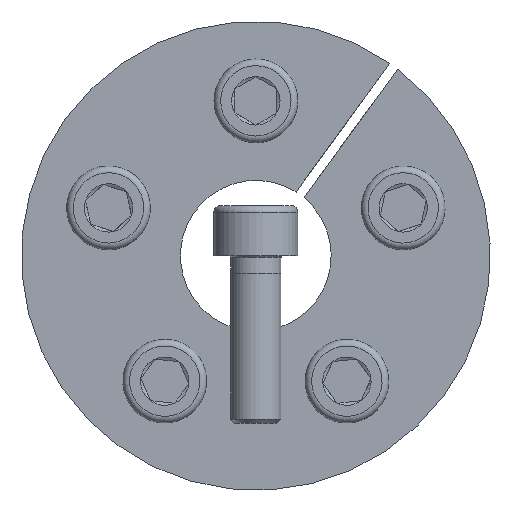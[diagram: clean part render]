
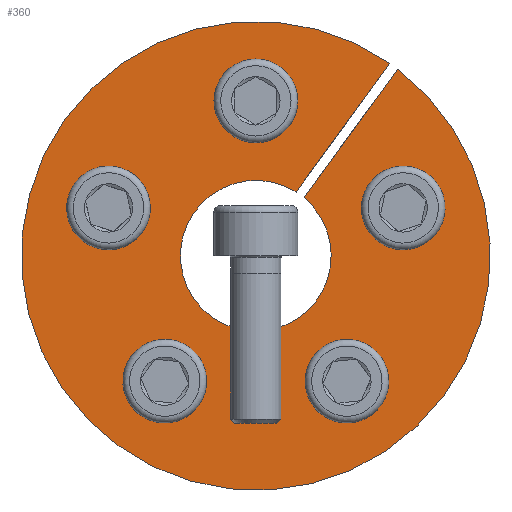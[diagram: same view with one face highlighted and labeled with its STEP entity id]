
A CAD part, front view. The second image highlights one B-rep face of the part: STEP entity #360.
In plain terms, the highlighted planar face has unit normal (0, -1, 0).
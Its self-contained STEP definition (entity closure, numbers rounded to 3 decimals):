
#360 = ADVANCED_FACE( '', ( #560, #561, #562, #563, #564, #565 ), #566, .F. );
#560 = FACE_BOUND( '', #694, .T. );
#561 = FACE_BOUND( '', #695, .T. );
#562 = FACE_BOUND( '', #696, .T. );
#563 = FACE_BOUND( '', #697, .T. );
#564 = FACE_BOUND( '', #698, .T. );
#565 = FACE_OUTER_BOUND( '', #699, .T. );
#566 = PLANE( '', #700 );
#694 = EDGE_LOOP( '', ( #867 ) );
#695 = EDGE_LOOP( '', ( #868 ) );
#696 = EDGE_LOOP( '', ( #869 ) );
#697 = EDGE_LOOP( '', ( #870 ) );
#698 = EDGE_LOOP( '', ( #871 ) );
#699 = EDGE_LOOP( '', ( #872, #873, #874, #875 ) );
#700 = AXIS2_PLACEMENT_3D( '', #876, #877, #878 );
#867 = ORIENTED_EDGE( '', *, *, #1167, .T. );
#868 = ORIENTED_EDGE( '', *, *, #1168, .T. );
#869 = ORIENTED_EDGE( '', *, *, #1169, .T. );
#870 = ORIENTED_EDGE( '', *, *, #1170, .T. );
#871 = ORIENTED_EDGE( '', *, *, #1171, .T. );
#872 = ORIENTED_EDGE( '', *, *, #1172, .T. );
#873 = ORIENTED_EDGE( '', *, *, #1173, .T. );
#874 = ORIENTED_EDGE( '', *, *, #1159, .T. );
#875 = ORIENTED_EDGE( '', *, *, #1174, .F. );
#876 = CARTESIAN_POINT( '', ( 0., 0., 28. ) );
#877 = DIRECTION( '', ( 0., 1., 0. ) );
#878 = DIRECTION( '', ( 0., 0., 1. ) );
#1159 = EDGE_CURVE( '', #1283, #1281, #1284, .T. );
#1167 = EDGE_CURVE( '', #1297, #1297, #1298, .T. );
#1168 = EDGE_CURVE( '', #1299, #1299, #1300, .T. );
#1169 = EDGE_CURVE( '', #1301, #1301, #1302, .T. );
#1170 = EDGE_CURVE( '', #1303, #1303, #1304, .T. );
#1171 = EDGE_CURVE( '', #1305, #1305, #1306, .T. );
#1172 = EDGE_CURVE( '', #1307, #1308, #1309, .T. );
#1173 = EDGE_CURVE( '', #1308, #1283, #1310, .T. );
#1174 = EDGE_CURVE( '', #1307, #1281, #1311, .T. );
#1281 = VERTEX_POINT( '', #1373 );
#1283 = VERTEX_POINT( '', #1376 );
#1284 = LINE( '', #1377, #1378 );
#1297 = VERTEX_POINT( '', #1402 );
#1298 = CIRCLE( '', #1403, 3. );
#1299 = VERTEX_POINT( '', #1404 );
#1300 = CIRCLE( '', #1405, 3. );
#1301 = VERTEX_POINT( '', #1406 );
#1302 = CIRCLE( '', #1407, 3. );
#1303 = VERTEX_POINT( '', #1408 );
#1304 = CIRCLE( '', #1409, 3. );
#1305 = VERTEX_POINT( '', #1410 );
#1306 = CIRCLE( '', #1411, 3. );
#1307 = VERTEX_POINT( '', #1412 );
#1308 = VERTEX_POINT( '', #1413 );
#1309 = LINE( '', #1414, #1415 );
#1310 = CIRCLE( '', #1416, 28. );
#1311 = CIRCLE( '', #1417, 9. );
#1373 = CARTESIAN_POINT( '', ( 5.754, 0., 6.92 ) );
#1376 = CARTESIAN_POINT( '', ( 16.93, 0., 22.302 ) );
#1377 = CARTESIAN_POINT( '', ( 16.933, 0., 22.307 ) );
#1378 = VECTOR( '', #1494, 1000. );
#1402 = CARTESIAN_POINT( '', ( -16.667, 0., 8.57 ) );
#1403 = AXIS2_PLACEMENT_3D( '', #1500, #1501, #1502 );
#1404 = CARTESIAN_POINT( '', ( 8.447, 0., -16.73 ) );
#1405 = AXIS2_PLACEMENT_3D( '', #1503, #1504, #1505 );
#1406 = CARTESIAN_POINT( '', ( 3., 0., 18.5 ) );
#1407 = AXIS2_PLACEMENT_3D( '', #1506, #1507, #1508 );
#1408 = CARTESIAN_POINT( '', ( 18.522, 0., 2.864 ) );
#1409 = AXIS2_PLACEMENT_3D( '', #1509, #1510, #1511 );
#1410 = CARTESIAN_POINT( '', ( -13.301, 0., -13.203 ) );
#1411 = AXIS2_PLACEMENT_3D( '', #1512, #1513, #1514 );
#1412 = CARTESIAN_POINT( '', ( 4.803, 0., 7.611 ) );
#1413 = CARTESIAN_POINT( '', ( 15.979, 0., 22.993 ) );
#1414 = CARTESIAN_POINT( '', ( 4.803, 0., 7.611 ) );
#1415 = VECTOR( '', #1515, 1000. );
#1416 = AXIS2_PLACEMENT_3D( '', #1516, #1517, #1518 );
#1417 = AXIS2_PLACEMENT_3D( '', #1519, #1520, #1521 );
#1494 = DIRECTION( '', ( -0.588, 0., -0.809 ) );
#1500 = CARTESIAN_POINT( '', ( -17.595, 0., 5.717 ) );
#1501 = DIRECTION( '', ( 0., 1., 0. ) );
#1502 = DIRECTION( '', ( 0.309, 0., 0.951 ) );
#1503 = CARTESIAN_POINT( '', ( 10.874, 0., -14.967 ) );
#1504 = DIRECTION( '', ( 0., 1., 0. ) );
#1505 = DIRECTION( '', ( -0.809, 0., -0.588 ) );
#1506 = CARTESIAN_POINT( '', ( 0., 0., 18.5 ) );
#1507 = DIRECTION( '', ( 0., 1., 0. ) );
#1508 = DIRECTION( '', ( 1., 0., 0. ) );
#1509 = CARTESIAN_POINT( '', ( 17.595, 0., 5.717 ) );
#1510 = DIRECTION( '', ( 0., 1., 0. ) );
#1511 = DIRECTION( '', ( 0.309, 0., -0.951 ) );
#1512 = CARTESIAN_POINT( '', ( -10.874, 0., -14.967 ) );
#1513 = DIRECTION( '', ( 0., 1., 0. ) );
#1514 = DIRECTION( '', ( -0.809, 0., 0.588 ) );
#1515 = DIRECTION( '', ( 0.588, 0., 0.809 ) );
#1516 = CARTESIAN_POINT( '', ( 0., 0., 0. ) );
#1517 = DIRECTION( '', ( 0., -1., 0. ) );
#1518 = DIRECTION( '', ( 0., 0., -1. ) );
#1519 = CARTESIAN_POINT( '', ( 0., 0., 0. ) );
#1520 = DIRECTION( '', ( 0., -1., 0. ) );
#1521 = DIRECTION( '', ( 0., 0., -1. ) );
